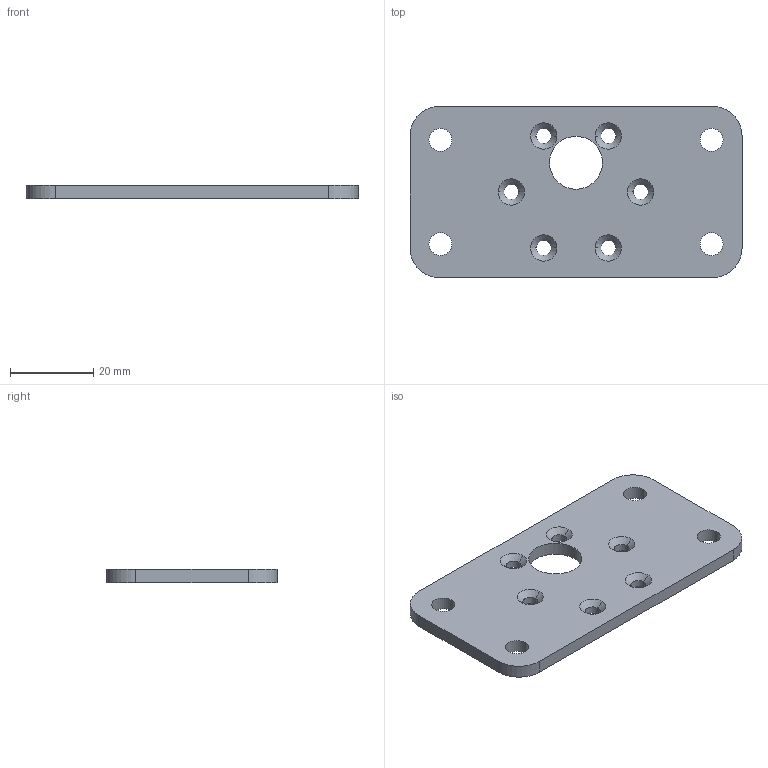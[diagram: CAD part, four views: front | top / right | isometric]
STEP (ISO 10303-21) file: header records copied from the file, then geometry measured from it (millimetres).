
FILE_DESCRIPTION (( 'STEP AP214' ), '1' );
FILE_NAME ('P-00007 - Motor Mount Plate - v2.2.0.STEP', '2026-06-12T21:51:22', ( '' ), ( '' ), 'SwSTEP 2.0', 'SolidWorks 2023', '' );
FILE_SCHEMA (( 'AUTOMOTIVE_DESIGN' ));
Length unit declared in the file: inch
Products named in the file (1): P-00007 - Motor Mount Plate - v2.2.0
Bounding box: 79.61 x 41 x 3.18 mm (x, y, z)
Volume: 9269.3 mm3; surface area: 7130.2 mm2
Topology: 1 solids, 1 shells, 44 faces, 114 edges, 72 vertices
Faces by surface type: cylinder 26, cone 12, plane 6
Entity records: 1437 total; most frequent: DIRECTION 268, CARTESIAN_POINT 231, ORIENTED_EDGE 228, EDGE_CURVE 114, AXIS2_PLACEMENT_3D 109, VERTEX_POINT 72, EDGE_LOOP 66, CIRCLE 64
